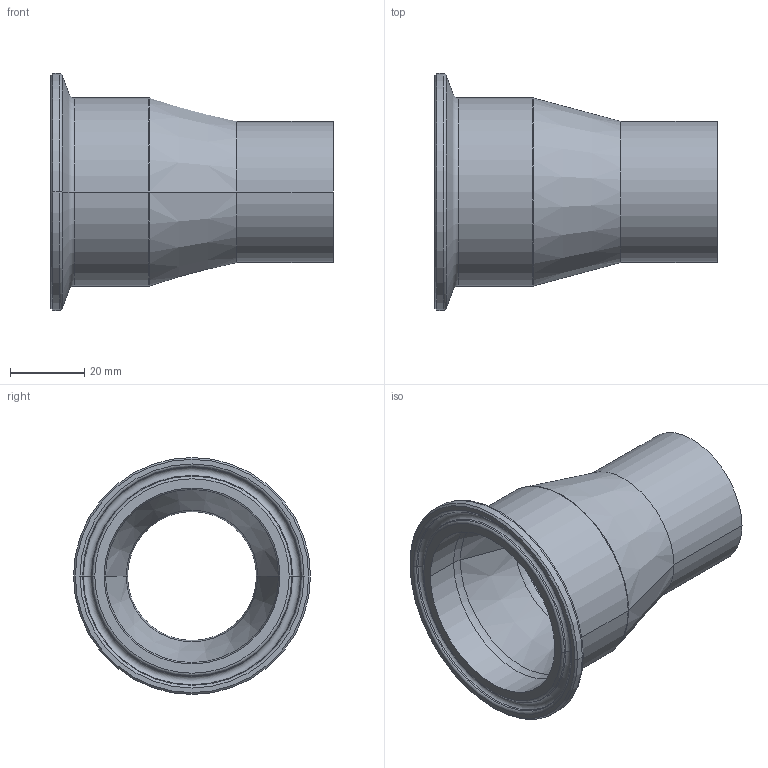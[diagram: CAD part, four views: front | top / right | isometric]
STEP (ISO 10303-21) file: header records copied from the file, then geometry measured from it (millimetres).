
FILE_DESCRIPTION (( 'STEP AP214' ), '1' );
FILE_NAME ('TE31SCW6L2.0x1.5-...STEP', '2016-05-29T11:28:34', ( 'eran' ), ( '' ), 'SwSTEP 2.0', 'SolidWorks 2016', '' );
FILE_SCHEMA (( 'AUTOMOTIVE_DESIGN' ));
Length unit declared in the file: millimetre
Products named in the file (1): TE31SCW6L2.0x1.5-..
Bounding box: 76.2 x 64 x 64 mm (x, y, z)
Volume: 37050.2 mm3; surface area: 22752.6 mm2
Topology: 1 solids, 1 shells, 41 faces, 82 edges, 44 vertices
Faces by surface type: torus 16, cone 12, cylinder 10, plane 3
Entity records: 1098 total; most frequent: DIRECTION 226, CARTESIAN_POINT 168, ORIENTED_EDGE 164, AXIS2_PLACEMENT_3D 102, EDGE_CURVE 82, CIRCLE 60, VERTEX_POINT 44, EDGE_LOOP 44
